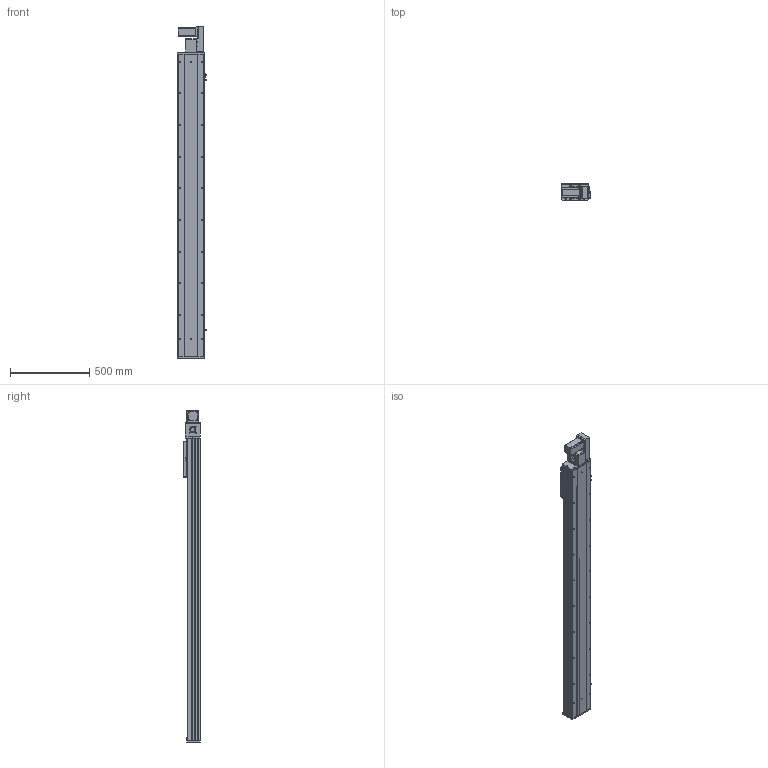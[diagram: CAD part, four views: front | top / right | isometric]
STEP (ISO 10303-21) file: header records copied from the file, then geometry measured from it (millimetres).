
FILE_DESCRIPTION (( 'STEP AP203' ), '1' );
FILE_NAME ('Y170CB-D105-S1600-BR-P400W.STEP', '2020-02-19T09:25:44', ( '微软用户' ), ( '微软中国' ), 'SwSTEP 2.0', 'SolidWorks 2017', '' );
FILE_SCHEMA (( 'CONFIG_CONTROL_DESIGN' ));
Length unit declared in the file: millimetre
Products named in the file (17): 70B喘謫眊----; B-源倛裔啣; 17B-耜蚾蟀諉啣----; 0B-萇儂楊擘啣; san松下电机400不带刹车----; Y70俋欶BR----; 70CB-掛极-; --70CB --喘謫眊楊擘啣-; 70C--詩湍揤踡え-; 70CB--耜裔; 0C--雄赽釱俋欶-170; 70CB-詩湍--; Y100-135俋离換覜ん--; Y170CB-陔俋离換覜結え---; Y170CB-D105-S1600-BR-P400W; 70CB-耜裔啣-; 70C-雄赽釱-奻-
Assembly tree (20 placements, depth 2):
  Y170CB-D105-S1600-BR-P400W
    70B喘謫眊----
    B-源倛裔啣
    17B-耜蚾蟀諉啣----
    0B-萇儂楊擘啣
    san松下电机400不带刹车----
    Y70俋欶BR----
    70CB-掛极-
    --70CB --喘謫眊楊擘啣-
    70CB-耜裔啣-  x2
    70C--詩湍揤踡え-  x2
    70CB--耜裔
    70C-雄赽釱-奻-
    0C--雄赽釱俋欶-170
    70CB-詩湍--
    Y100-135俋离換覜ん--  x3
    Y170CB-陔俋离換覜結え---
Bounding box: 183.5 x 107 x 2097 mm (x, y, z)
Volume: 8894798.5 mm3; surface area: 3193864 mm2
Topology: 20 solids, 20 shells, 1017 faces, 2729 edges, 1810 vertices
Faces by surface type: cylinder 531, plane 462, cone 24
Entity records: 32335 total; most frequent: CARTESIAN_POINT 5961, DIRECTION 5260, ORIENTED_EDGE 4940, EDGE_CURVE 2470, AXIS2_PLACEMENT_3D 1925, VERTEX_POINT 1640, LINE 1410, VECTOR 1410
